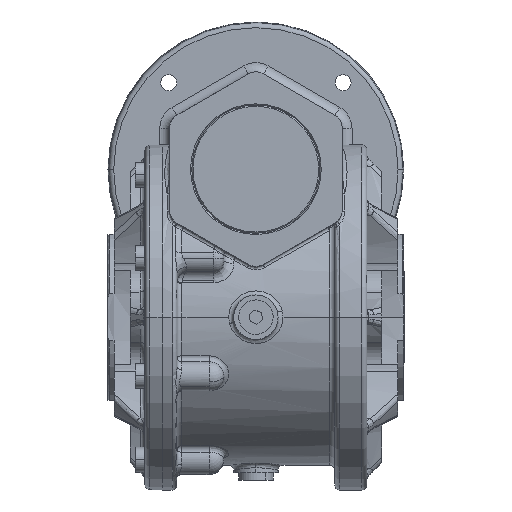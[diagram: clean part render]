
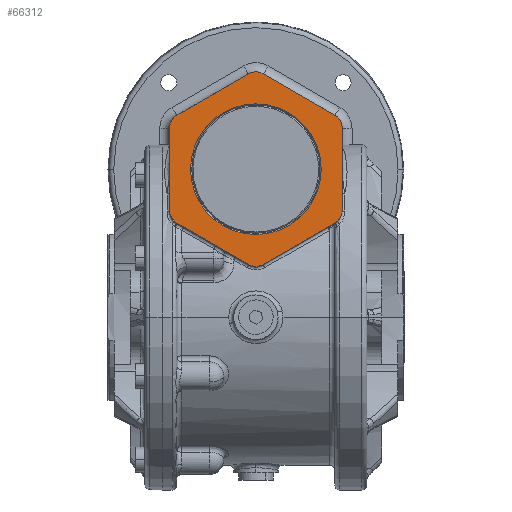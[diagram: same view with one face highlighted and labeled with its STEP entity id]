
A CAD part, top view. The second image highlights one B-rep face of the part: STEP entity #66312.
In plain terms, the highlighted planar face has unit normal (0, 0, 1).
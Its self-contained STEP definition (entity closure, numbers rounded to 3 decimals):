
#66253 = VERTEX_POINT ( 'NONE', #257801 ) ;
#66260 = EDGE_CURVE ( 'NONE', #66264, #66253, #257796, .T. ) ;
#66264 = VERTEX_POINT ( 'NONE', #257790 ) ;
#66281 = ORIENTED_EDGE ( 'NONE', *, *, #66285, .T. ) ;
#66285 = EDGE_CURVE ( 'NONE', #66552, #66264, #257772, .T. ) ;
#66289 = ORIENTED_EDGE ( 'NONE', *, *, #66260, .T. ) ;
#66312 = ADVANCED_FACE ( 'NONE', ( #257751, #257750 ), #257745, .T. ) ;
#66320 = EDGE_LOOP ( 'NONE', ( #66324, #66327 ) ) ;
#66324 = ORIENTED_EDGE ( 'NONE', *, *, #124077, .T. ) ;
#66327 = ORIENTED_EDGE ( 'NONE', *, *, #66329, .T. ) ;
#66329 = EDGE_CURVE ( 'NONE', #124171, #124288, #257871, .T. ) ;
#66334 = EDGE_LOOP ( 'NONE', ( #66337, #66534, #66544, #66547, #66281, #66289, #66484, #66493, #66505, #66515, #66518, #66432 ) ) ;
#66337 = ORIENTED_EDGE ( 'NONE', *, *, #66532, .T. ) ;
#66340 = VERTEX_POINT ( 'NONE', #257862 ) ;
#66432 = ORIENTED_EDGE ( 'NONE', *, *, #66435, .T. ) ;
#66435 = EDGE_CURVE ( 'NONE', #66525, #66340, #257878, .T. ) ;
#66484 = ORIENTED_EDGE ( 'NONE', *, *, #66487, .T. ) ;
#66487 = EDGE_CURVE ( 'NONE', #66253, #66490, #258066, .T. ) ;
#66490 = VERTEX_POINT ( 'NONE', #258058 ) ;
#66493 = ORIENTED_EDGE ( 'NONE', *, *, #66496, .T. ) ;
#66496 = EDGE_CURVE ( 'NONE', #66490, #66501, #258053, .T. ) ;
#66501 = VERTEX_POINT ( 'NONE', #258047 ) ;
#66505 = ORIENTED_EDGE ( 'NONE', *, *, #66510, .T. ) ;
#66510 = EDGE_CURVE ( 'NONE', #66501, #66514, #258046, .T. ) ;
#66514 = VERTEX_POINT ( 'NONE', #258040 ) ;
#66515 = ORIENTED_EDGE ( 'NONE', *, *, #66516, .T. ) ;
#66516 = EDGE_CURVE ( 'NONE', #66514, #66517, #258039, .T. ) ;
#66517 = VERTEX_POINT ( 'NONE', #258035 ) ;
#66518 = ORIENTED_EDGE ( 'NONE', *, *, #66520, .T. ) ;
#66520 = EDGE_CURVE ( 'NONE', #66517, #66525, #258034, .T. ) ;
#66525 = VERTEX_POINT ( 'NONE', #258029 ) ;
#66532 = EDGE_CURVE ( 'NONE', #66340, #66533, #258027, .T. ) ;
#66533 = VERTEX_POINT ( 'NONE', #258028 ) ;
#66534 = ORIENTED_EDGE ( 'NONE', *, *, #66536, .T. ) ;
#66536 = EDGE_CURVE ( 'NONE', #66533, #66541, #258137, .T. ) ;
#66541 = VERTEX_POINT ( 'NONE', #258133 ) ;
#66544 = ORIENTED_EDGE ( 'NONE', *, *, #66545, .T. ) ;
#66545 = EDGE_CURVE ( 'NONE', #66541, #66546, #258126, .T. ) ;
#66546 = VERTEX_POINT ( 'NONE', #258117 ) ;
#66547 = ORIENTED_EDGE ( 'NONE', *, *, #66549, .T. ) ;
#66549 = EDGE_CURVE ( 'NONE', #66546, #66552, #258112, .T. ) ;
#66552 = VERTEX_POINT ( 'NONE', #258106 ) ;
#124077 = EDGE_CURVE ( 'NONE', #124288, #124171, #166548, .T. ) ;
#124171 = VERTEX_POINT ( 'NONE', #166818 ) ;
#124288 = VERTEX_POINT ( 'NONE', #171657 ) ;
#166548 = CIRCLE ( 'NONE', #166595, 26.5 ) ;
#166592 = DIRECTION ( 'NONE',  ( 1., 0., 0. ) ) ;
#166593 = DIRECTION ( 'NONE',  ( 0., 0., -1. ) ) ;
#166594 = CARTESIAN_POINT ( 'NONE',  ( 0., 0., 75. ) ) ;
#166595 = AXIS2_PLACEMENT_3D ( 'NONE', #166594, #166593, #166592 ) ;
#166818 = CARTESIAN_POINT ( 'NONE',  ( -26.5, 0., 75. ) ) ;
#171657 = CARTESIAN_POINT ( 'NONE',  ( 26.5, 0., 75. ) ) ;
#257738 = DIRECTION ( 'NONE',  ( 1., 0., 0. ) ) ;
#257740 = DIRECTION ( 'NONE',  ( 0., 0., 1. ) ) ;
#257742 = CARTESIAN_POINT ( 'NONE',  ( -29., 16.743, 75. ) ) ;
#257743 = AXIS2_PLACEMENT_3D ( 'NONE', #257742, #257740, #257738 ) ;
#257745 = PLANE ( 'NONE',  #257743 ) ;
#257750 = FACE_OUTER_BOUND ( 'NONE', #66334, .T. ) ;
#257751 = FACE_BOUND ( 'NONE', #66320, .T. ) ;
#257765 = DIRECTION ( 'NONE',  ( 1., 0., 0. ) ) ;
#257767 = DIRECTION ( 'NONE',  ( 0., 0., 1. ) ) ;
#257769 = CARTESIAN_POINT ( 'NONE',  ( 0., -33.486, 75. ) ) ;
#257771 = AXIS2_PLACEMENT_3D ( 'NONE', #257769, #257767, #257765 ) ;
#257772 = CIRCLE ( 'NONE', #257771, 6. ) ;
#257790 = CARTESIAN_POINT ( 'NONE',  ( 3., -38.682, 75. ) ) ;
#257792 = DIRECTION ( 'NONE',  ( 0.866, 0.5, 0. ) ) ;
#257794 = VECTOR ( 'NONE', #257792, 1000. ) ;
#257795 = CARTESIAN_POINT ( 'NONE',  ( 3., -38.682, 75. ) ) ;
#257796 = LINE ( 'NONE', #257795, #257794 ) ;
#257801 = CARTESIAN_POINT ( 'NONE',  ( 32., -21.939, 75. ) ) ;
#257862 = CARTESIAN_POINT ( 'NONE',  ( -32., 21.939, 75. ) ) ;
#257864 = DIRECTION ( 'NONE',  ( 1., 0., 0. ) ) ;
#257866 = DIRECTION ( 'NONE',  ( 0., 0., -1. ) ) ;
#257868 = CARTESIAN_POINT ( 'NONE',  ( 0., 0., 75. ) ) ;
#257869 = AXIS2_PLACEMENT_3D ( 'NONE', #257868, #257866, #257864 ) ;
#257871 = CIRCLE ( 'NONE', #257869, 26.5 ) ;
#257875 = VECTOR ( 'NONE', #258008, 1000. ) ;
#257877 = CARTESIAN_POINT ( 'NONE',  ( -3., 38.682, 75. ) ) ;
#257878 = LINE ( 'NONE', #257877, #257875 ) ;
#257951 = CARTESIAN_POINT ( 'NONE',  ( 29., -16.743, 75. ) ) ;
#258008 = DIRECTION ( 'NONE',  ( -0.866, -0.5, 0. ) ) ;
#258023 = DIRECTION ( 'NONE',  ( 1., 0., 0. ) ) ;
#258024 = DIRECTION ( 'NONE',  ( 0., 0., 1. ) ) ;
#258025 = CARTESIAN_POINT ( 'NONE',  ( -29., 16.743, 75. ) ) ;
#258026 = AXIS2_PLACEMENT_3D ( 'NONE', #258025, #258024, #258023 ) ;
#258027 = CIRCLE ( 'NONE', #258026, 6. ) ;
#258028 = CARTESIAN_POINT ( 'NONE',  ( -35., 16.743, 75. ) ) ;
#258029 = CARTESIAN_POINT ( 'NONE',  ( -3., 38.682, 75. ) ) ;
#258030 = DIRECTION ( 'NONE',  ( -1., 0., 0. ) ) ;
#258031 = DIRECTION ( 'NONE',  ( 0., 0., 1. ) ) ;
#258032 = CARTESIAN_POINT ( 'NONE',  ( 0., 33.486, 75. ) ) ;
#258033 = AXIS2_PLACEMENT_3D ( 'NONE', #258032, #258031, #258030 ) ;
#258034 = CIRCLE ( 'NONE', #258033, 6. ) ;
#258035 = CARTESIAN_POINT ( 'NONE',  ( 3., 38.682, 75. ) ) ;
#258036 = DIRECTION ( 'NONE',  ( -0.866, 0.5, 0. ) ) ;
#258037 = VECTOR ( 'NONE', #258036, 1000. ) ;
#258038 = CARTESIAN_POINT ( 'NONE',  ( 32., 21.939, 75. ) ) ;
#258039 = LINE ( 'NONE', #258038, #258037 ) ;
#258040 = CARTESIAN_POINT ( 'NONE',  ( 32., 21.939, 75. ) ) ;
#258041 = DIRECTION ( 'NONE',  ( 1., 0., 0. ) ) ;
#258042 = DIRECTION ( 'NONE',  ( 0., 0., 1. ) ) ;
#258044 = CARTESIAN_POINT ( 'NONE',  ( 29., 16.743, 75. ) ) ;
#258045 = AXIS2_PLACEMENT_3D ( 'NONE', #258044, #258042, #258041 ) ;
#258046 = CIRCLE ( 'NONE', #258045, 6. ) ;
#258047 = CARTESIAN_POINT ( 'NONE',  ( 35., 16.743, 75. ) ) ;
#258049 = DIRECTION ( 'NONE',  ( 0., 1., 0. ) ) ;
#258050 = VECTOR ( 'NONE', #258049, 1000. ) ;
#258052 = CARTESIAN_POINT ( 'NONE',  ( 35., -16.743, 75. ) ) ;
#258053 = LINE ( 'NONE', #258052, #258050 ) ;
#258058 = CARTESIAN_POINT ( 'NONE',  ( 35., -16.743, 75. ) ) ;
#258060 = DIRECTION ( 'NONE',  ( 1., 0., 0. ) ) ;
#258062 = DIRECTION ( 'NONE',  ( 0., 0., 1. ) ) ;
#258064 = AXIS2_PLACEMENT_3D ( 'NONE', #257951, #258062, #258060 ) ;
#258066 = CIRCLE ( 'NONE', #258064, 6. ) ;
#258106 = CARTESIAN_POINT ( 'NONE',  ( -3., -38.682, 75. ) ) ;
#258107 = DIRECTION ( 'NONE',  ( 0.866, -0.5, 0. ) ) ;
#258108 = VECTOR ( 'NONE', #258107, 1000. ) ;
#258110 = CARTESIAN_POINT ( 'NONE',  ( -32., -21.939, 75. ) ) ;
#258112 = LINE ( 'NONE', #258110, #258108 ) ;
#258117 = CARTESIAN_POINT ( 'NONE',  ( -32., -21.939, 75. ) ) ;
#258119 = DIRECTION ( 'NONE',  ( 1., 0., 0. ) ) ;
#258121 = DIRECTION ( 'NONE',  ( 0., 0., 1. ) ) ;
#258122 = CARTESIAN_POINT ( 'NONE',  ( -29., -16.743, 75. ) ) ;
#258124 = AXIS2_PLACEMENT_3D ( 'NONE', #258122, #258121, #258119 ) ;
#258126 = CIRCLE ( 'NONE', #258124, 6. ) ;
#258133 = CARTESIAN_POINT ( 'NONE',  ( -35., -16.743, 75. ) ) ;
#258134 = DIRECTION ( 'NONE',  ( 0., -1., 0. ) ) ;
#258135 = VECTOR ( 'NONE', #258134, 1000. ) ;
#258136 = CARTESIAN_POINT ( 'NONE',  ( -35., 16.743, 75. ) ) ;
#258137 = LINE ( 'NONE', #258136, #258135 ) ;
